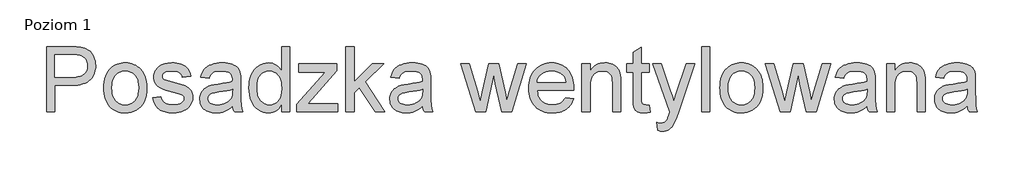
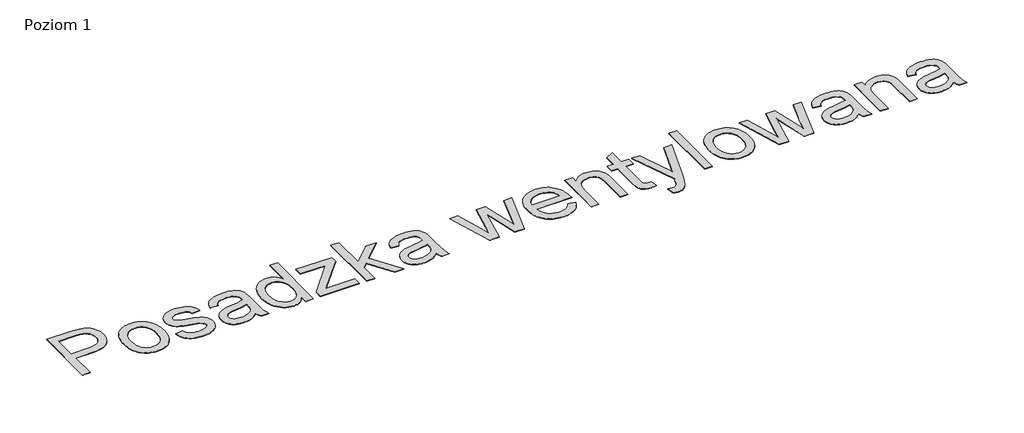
# One storey, part 2 of 4: 1 proxy.
"""IFC4 building model written with IfcOpenShell, lengths in millimetres."""

from ifc_helpers import new_model, si_unit, origin, origin_with_axes, place, context, project, spatial, polyline, outline, extrude, element, save

model = new_model("IFC4")

# Units and contexts
model_context = context("Model", 3, world=origin())
ifc_project = project(units=[si_unit("LENGTHUNIT", "METRE", prefix="MILLI")], contexts=[model_context])

# Site, building, storey
site = spatial("IfcSite", under=ifc_project)
building = spatial("IfcBuilding", under=site)
storey = spatial("IfcBuildingStorey", under=building, Name="Poziom 1", Elevation=0.0)

# Proxy
placement = place(None, origin())
element("IfcBuildingElementProxy", 1, Name="1500 mm Arial", ObjectType="1500 mm Arial", at=placement, inside=storey, context=model_context, shape_type="SweptSolid", body=[
    extrude(outline(polyline([(-116861.0329037, 48996.5868707), (-116861.0329037, 50503.4315229), (-116302.588035, 50503.4315229), (-116172.5417497, 50499.8446735), (-116077.4442539, 50489.0841251), (-116025.0325659, 50477.7832501), (-115977.0584545, 50462.2747247), (-115933.5219196, 50442.558549), (-115894.4229613, 50418.634723), (-115859.3477124, 50390.0089053), (-115827.8823055, 50356.1867543), (-115800.0267406, 50317.1682702), (-115775.7810179, 50272.9534529), (-115756.1453164, 50225.0023341), (-115742.1198153, 50174.7749455), (-115733.7045147, 50122.271287), (-115730.8994145, 50067.4913586), (-115732.7934319, 50020.3162409), (-115738.4754843, 49974.9920295), (-115747.9455716, 49931.5187243), (-115761.2036938, 49889.8963255), (-115778.249851, 49850.1248329), (-115799.084043, 49812.2042466), (-115823.70627, 49776.1345666), (-115852.1165319, 49741.9157929), (-115885.4702081, 49710.7033049), (-115924.922678, 49683.6524819), (-115970.4739416, 49660.763324), (-116022.1239989, 49642.0358312), (-116079.8728499, 49627.4700035), (-116143.7204946, 49617.0658408), (-116213.666933, 49610.8233432), (-116289.7121651, 49608.7425106), (-116672.6773221, 49608.7425106), (-116672.6773221, 48996.5868707), (-116861.0329037, 48996.5868707)]), holes=[polyline([(-116672.6773221, 49797.0980922), (-116278.6757053, 49797.0980922), (-116188.084764, 49801.4207056), (-116111.6572795, 49814.3885459), (-116078.7548335, 49824.1144262), (-116049.3932518, 49836.0016132), (-116023.5725343, 49850.0501068), (-116001.2926809, 49866.2599073), (-115965.4011938, 49904.3586864), (-115939.7644172, 49949.4932087), (-115924.3823513, 50001.6634741), (-115919.254996, 50060.8694827), (-115922.2785262, 50104.8313811), (-115931.3491166, 50145.4823416), (-115946.4667673, 50182.8223641), (-115967.6314784, 50216.8514487), (-115993.7166111, 50246.4659493), (-116023.5955269, 50270.56222), (-116057.2682258, 50289.1402607), (-116094.7347077, 50302.2000715), (-116167.3914017, 50311.8569739), (-116283.0902892, 50315.0759414), (-116672.6773221, 50315.0759414), (-116672.6773221, 49797.0980922)])]), origin_with_axes(), (0.0, 0.0, 1.0), 10.0),
    extrude(outline(polyline([(-115542.5438329, 49549.8813914), (-115539.9973998, 49624.0153616), (-115532.3581002, 49693.1944212), (-115519.6259343, 49757.4185701), (-115501.800902, 49816.6878084), (-115478.8830033, 49871.0021361), (-115450.8722383, 49920.3615532), (-115417.7686069, 49964.7660596), (-115379.5721091, 50004.2156555), (-115344.6118232, 50032.9276955), (-115307.7891348, 50057.8114636), (-115269.1040437, 50078.8669597), (-115228.5565501, 50096.0941837), (-115186.1466538, 50109.4931358), (-115141.8743549, 50119.0638158), (-115095.7396535, 50124.8062238), (-115047.7425494, 50126.7203598), (-114994.54049, 50124.3894825), (-114943.8273821, 50117.3968505), (-114895.6032259, 50105.7424639), (-114849.8680213, 50089.4263226), (-114806.6217683, 50068.4484266), (-114765.8644669, 50042.808776), (-114727.5961172, 50012.5073707), (-114691.8167191, 49977.5442108), (-114659.4402294, 49938.4711192), (-114631.3806051, 49895.8399189), (-114607.637846, 49849.65061), (-114588.2119522, 49799.9031924), (-114573.1029237, 49746.5976661), (-114562.3107605, 49689.7340311), (-114555.8354626, 49629.3122875), (-114553.6770299, 49565.3324352), (-114557.4938056, 49464.5097759), (-114568.9441327, 49375.0454732), (-114588.0280112, 49296.9395271), (-114614.7454411, 49230.1919376), (-114648.7630293, 49172.5379312), (-114689.7473829, 49121.7127343), (-114737.6985017, 49077.7163469), (-114792.6163858, 49040.5487691), (-114852.3627211, 49011.0147427), (-114914.7991934, 48989.9190095), (-114979.9258029, 48977.2615696), (-115047.7425494, 48973.042423), (-115101.7838397, 48975.3646781), (-115153.17523, 48982.3314434), (-115201.9167203, 48993.9427188), (-115248.0083106, 49010.1985045), (-115291.4500008, 49031.0988003), (-115332.2417911, 49056.6436064), (-115370.3836814, 49086.8329226), (-115405.8756717, 49121.666749), (-115437.907272, 49160.8691741), (-115465.6679923, 49204.1642864), (-115489.1578325, 49251.5520859), (-115508.3767926, 49303.0325726), (-115523.3248728, 49358.6057465), (-115534.0020729, 49418.2716076), (-115540.4083929, 49482.0301559), (-115542.5438329, 49549.8813914)]), holes=[polyline([(-115354.1882514, 49550.2492734), (-115348.7389994, 49458.8880792), (-115341.9274343, 49417.8031329), (-115332.3912432, 49379.7819539), (-115320.1304261, 49344.8245421), (-115305.1449829, 49312.9308976), (-115287.4349138, 49284.1010203), (-115267.0002186, 49258.3349102), (-115244.5019353, 49235.615323), (-115220.6011019, 49215.925014), (-115195.2977184, 49199.2639833), (-115168.5917848, 49185.6322309), (-115140.4833012, 49175.0297569), (-115110.9722674, 49167.4565611), (-115047.7425494, 49161.3980045), (-114984.8347283, 49167.49105), (-114955.4501539, 49175.107357), (-114927.445137, 49185.7701867), (-114900.8196776, 49199.4795392), (-114875.5737757, 49216.2354144), (-114851.7074312, 49236.0378124), (-114829.2206443, 49258.8867332), (-114808.7859491, 49284.8569028), (-114791.0758799, 49314.0230473), (-114776.0904368, 49346.3851665), (-114763.8296197, 49381.9432606), (-114754.2934286, 49420.6973295), (-114747.4818635, 49462.6473733), (-114742.0326114, 49556.1353853), (-114747.5163524, 49644.5995089), (-114754.3710287, 49684.5463202), (-114763.9675754, 49721.6362979), (-114776.3059926, 49755.869442), (-114791.3862804, 49787.2457525), (-114809.2084386, 49815.7652293), (-114829.7724673, 49841.4278726), (-114876.2980434, 49883.8377688), (-114901.5525675, 49900.4987995), (-114928.1349157, 49914.1305519), (-114956.0450881, 49924.7330259), (-114985.2830844, 49932.3062217), (-115047.7425494, 49938.3647783), (-115110.9722674, 49932.3292143), (-115140.4833012, 49924.7847594), (-115168.5917848, 49914.2225224), (-115195.2977184, 49900.6425034), (-115220.6011019, 49884.0447025), (-115244.5019353, 49864.4291195), (-115267.0002186, 49841.7957546), (-115287.4349138, 49816.1158669), (-115305.1449829, 49787.3607156), (-115320.1304261, 49755.5303008), (-115332.3912432, 49720.6246224), (-115341.9274343, 49682.6436805), (-115348.7389994, 49641.587475), (-115354.1882514, 49550.2492734)])]), origin_with_axes(), (0.0, 0.0, 1.0), 10.0),
    extrude(outline(polyline([(-114412.4103438, 49326.2091383), (-114224.0547622, 49349.753586), (-114212.673413, 49306.8033631), (-114194.3482911, 49269.1874291), (-114169.0793966, 49236.905784), (-114136.8667294, 49209.9584279), (-114097.618319, 49188.7132426), (-114051.242195, 49173.5381103), (-113997.7383573, 49164.433031), (-113937.106806, 49161.3980045), (-113876.5442325, 49164.1801121), (-113824.3509745, 49172.5264349), (-113780.5270318, 49186.4369728), (-113745.0724045, 49205.9117259), (-113717.7111811, 49229.1342769), (-113698.1674501, 49254.2882083), (-113686.4412115, 49281.3735202), (-113682.5324653, 49310.3902125), (-113686.4642042, 49335.8200555), (-113698.2594206, 49358.3988129), (-113717.9181147, 49378.1264849), (-113745.4402865, 49395.0030714), (-113815.9816591, 49418.9154011), (-113939.314098, 49448.7138427), (-114111.2069602, 49498.4238973), (-114174.5976265, 49520.5542986), (-114222.9511162, 49540.8682825), (-114261.3143106, 49562.1479567), (-114294.7340906, 49587.1754287), (-114323.2104562, 49615.9506985), (-114346.7434076, 49648.4737661), (-114365.1719963, 49683.767445), (-114378.335274, 49720.8545487), (-114386.2332405, 49759.735077), (-114388.8658961, 49800.4090301), (-114386.7505746, 49837.5996006), (-114380.4046102, 49873.3876209), (-114369.8280028, 49907.7730912), (-114355.0207525, 49940.7560113), (-114336.5576749, 49971.6695952), (-114315.0135855, 49999.8470568), (-114290.3884845, 50025.288396), (-114262.6823717, 50047.9936129), (-114210.6730547, 50078.2978922), (-114142.9367823, 50103.7277351), (-114064.6239026, 50120.9722037), (-113980.8847634, 50126.7203598), (-113917.5860676, 50124.4096011), (-113858.2880885, 50117.4773247), (-113802.9908261, 50105.9235308), (-113751.6942804, 50089.7482193), (-113705.6170605, 50069.6296727), (-113665.9777755, 50046.2461734), (-113632.7764255, 50019.5977214), (-113606.0130103, 49989.6843166), (-113584.3079726, 49955.4597948), (-113566.2817549, 49915.8779914), (-113551.934357, 49870.9389064), (-113541.2657792, 49820.6425399), (-113729.6213607, 49797.0980922), (-113738.5999807, 49828.5634991), (-113753.3957346, 49856.3730786), (-113774.0086227, 49880.5268309), (-113800.4386448, 49901.0247558), (-113832.800764, 49917.3610157), (-113871.2099436, 49929.0297727), (-113915.6661835, 49936.0310269), (-113966.1694836, 49938.3647783), (-114024.7546913, 49936.1344937), (-114074.3267902, 49929.4436399), (-114114.8857802, 49918.292217), (-114146.4316612, 49902.6802248), (-114170.0910721, 49884.102184), (-114186.9906512, 49864.0526153), (-114197.1303987, 49842.5315186), (-114200.5103145, 49819.5388939), (-114194.9001141, 49790.5681868), (-114178.0695128, 49764.7244766), (-114149.2827467, 49741.6398814), (-114107.8040518, 49723.1538111), (-113945.5680919, 49683.0546737), (-113779.1474743, 49633.8504568), (-113669.1047725, 49594.3951128), (-113630.3851925, 49575.150286), (-113596.0801965, 49551.9967129), (-113566.1897844, 49524.9343936), (-113540.7139562, 49493.9633281), (-113520.353987, 49459.0375312), (-113505.8111519, 49420.1110176), (-113497.0854508, 49377.1837873), (-113494.1768838, 49330.2558403), (-113497.5912886, 49283.1209597), (-113507.8345029, 49237.3656365), (-113524.9065267, 49192.9898708), (-113548.8073601, 49149.9936627), (-113579.1461284, 49110.0899625), (-113615.531957, 49074.9917209), (-113657.9648458, 49044.6989378), (-113706.444795, 49019.2116134), (-113759.6497286, 48999.0125926), (-113816.2575706, 48984.5847206), (-113876.268321, 48975.9279974), (-113939.68198, 48973.042423), (-114041.0564623, 48978.6066381), (-114086.9324967, 48985.5619071), (-114129.60106, 48995.2992837), (-114169.0621521, 49007.8187678), (-114205.3157731, 49023.1203596), (-114238.3619229, 49041.2040589), (-114268.2006016, 49062.0698658), (-114295.1594541, 49085.6717951), (-114319.5661252, 49111.9638614), (-114341.420615, 49140.9460648), (-114360.7229234, 49172.6184054), (-114377.4730505, 49206.980883), (-114391.6709963, 49244.0334977), (-114412.4103438, 49326.2091383)])), origin_with_axes(), (0.0, 0.0, 1.0), 10.0),
    extrude(outline(polyline([(-112575.9434238, 49137.8535568), (-112620.6065973, 49095.938002), (-112665.9365569, 49060.6903083), (-112711.9333026, 49032.1104758), (-112758.5968344, 49010.1985045), (-112806.4559828, 48993.9427188), (-112856.0395779, 48982.3314434), (-112907.3476199, 48975.3646781), (-112960.3801088, 48973.042423), (-113044.2457074, 48978.6296308), (-113082.3071235, 48985.6136405), (-113117.7876175, 48995.3912542), (-113150.6871893, 49007.9624717), (-113181.0058391, 49023.3272932), (-113208.7435667, 49041.4857185), (-113233.9003722, 49062.4377478), (-113256.2750701, 49085.5625801), (-113275.666475, 49110.2394145), (-113292.0745868, 49136.4682512), (-113305.4994055, 49164.24909), (-113315.9409312, 49193.5819309), (-113323.3991638, 49224.4667741), (-113329.36575, 49290.8924668), (-113327.1124727, 49330.8306559), (-113320.3526411, 49368.9754203), (-113309.086255, 49405.3267599), (-113293.3133144, 49439.8846749), (-113273.8730502, 49471.8904084), (-113251.6046932, 49500.5852041), (-113226.5082434, 49525.9690617), (-113198.5837007, 49548.0419814), (-113136.2736877, 49583.910476), (-113066.6980054, 49609.8461566), (-112998.9157478, 49624.2855249), (-112903.7262815, 49638.1730703), (-112800.1215146, 49652.4284976), (-112711.1400571, 49667.9715119), (-112636.7819088, 49684.8021131), (-112577.0470698, 49702.9203014), (-112575.9434238, 49744.8588489), (-112579.1853839, 49790.5222015), (-112588.9112642, 49828.9198848), (-112605.1210646, 49860.0518986), (-112627.8147852, 49883.918243), (-112667.0402029, 49907.7386022), (-112714.818877, 49924.7531445), (-112771.1508075, 49934.9618699), (-112836.0359944, 49938.3647783), (-112896.3686416, 49936.1000048), (-112948.240003, 49929.3056842), (-112991.6500784, 49917.9818165), (-113026.5988679, 49902.1284018), (-113055.3166562, 49880.5038383), (-113080.0337277, 49851.8665242), (-113100.7500826, 49816.2164596), (-113117.4657207, 49773.5536445), (-113305.8213023, 49797.0980922), (-113291.4854008, 49851.3606865), (-113273.1257899, 49900.1050508), (-113250.7424698, 49943.3311853), (-113224.3354403, 49981.0390898), (-113192.7665666, 50013.9875209), (-113154.8977137, 50042.9352354), (-113110.7288817, 50067.8822332), (-113060.2600705, 50088.8285143), (-113004.5144519, 50105.4061968), (-112944.5151978, 50117.2473985), (-112880.262308, 50124.3521195), (-112811.7557827, 50126.7203598), (-112744.7897633, 50124.628031), (-112684.4226272, 50118.3510445), (-112630.6543743, 50107.8894002), (-112583.4850047, 50093.2430983), (-112542.5236438, 50075.4353105), (-112507.379417, 50055.4892085), (-112478.0523242, 50033.4047925), (-112454.5423654, 50009.1820624), (-112435.4814796, 49982.2232099), (-112419.5016054, 49951.9304269), (-112406.6027429, 49918.3037133), (-112396.7848922, 49881.3430691), (-112389.8871048, 49816.2279559), (-112387.5878423, 49716.5319352), (-112387.5878423, 49482.1911043), (-112385.1966093, 49278.0625822), (-112378.0229104, 49154.9600696), (-112363.8594536, 49074.0720159), (-112340.4989469, 48996.5868707), (-112528.8545285, 48996.5868707), (-112545.5931592, 49028.0407813), (-112559.0208521, 49062.0698658), (-112569.1376069, 49098.6741243), (-112575.9434238, 49137.8535568)]), holes=[polyline([(-112575.9434238, 49514.5647199), (-112632.8731626, 49498.262949), (-112702.4948302, 49483.2027798), (-112879.8139519, 49456.8072466), (-112977.5326068, 49442.3678783), (-113041.8659707, 49426.273041), (-113084.0344444, 49405.3957378), (-113101.0144978, 49391.9910376), (-113115.2584288, 49376.6089717), (-113126.5248149, 49359.801363), (-113134.5722335, 49342.1200346), (-113139.4006847, 49323.5649865), (-113141.0101684, 49304.1362186), (-113137.5037932, 49274.8666074), (-113126.9846674, 49248.1261849), (-113109.452791, 49223.9149511), (-113084.9081642, 49202.232906), (-113053.580713, 49184.3676366), (-113015.7003638, 49171.6067299), (-112971.2671166, 49163.9501858), (-112920.2809713, 49161.3980045), (-112868.225669, 49164.214601), (-112819.1134226, 49172.6643906), (-112772.9442323, 49186.7473732), (-112729.7180978, 49206.4635489), (-112690.7226063, 49230.1804413), (-112657.2453448, 49256.265574), (-112629.2863131, 49284.7189471), (-112606.8455114, 49315.5405605), (-112593.8086932, 49343.1317101), (-112584.4966802, 49376.6089717), (-112578.9094724, 49415.9723452), (-112577.0470698, 49461.2218306), (-112575.9434238, 49514.5647199)])]), origin_with_axes(), (0.0, 0.0, 1.0), 10.0),
    extrude(outline(polyline([(-111445.8099347, 48996.5868707), (-111445.8099347, 49174.2738743), (-111472.4986238, 49127.1102529), (-111502.1648578, 49086.2351144), (-111534.8086367, 49051.6484587), (-111570.4299605, 49023.3502858), (-111609.0288292, 49001.3405958), (-111650.6052428, 48985.6193887), (-111695.1592014, 48976.1866644), (-111742.6907048, 48973.042423), (-111804.8627619, 48977.5949627), (-111864.4596452, 48991.2525817), (-111921.4813544, 49014.0152802), (-111975.9278897, 49045.883058), (-112026.0977968, 49085.9017213), (-112070.2896215, 49133.1170761), (-112108.5033637, 49187.5291225), (-112140.7390235, 49249.1378604), (-112166.3298148, 49316.7706659), (-112184.6089515, 49389.2549153), (-112195.5764334, 49466.5906084), (-112199.2322608, 49548.7777454), (-112195.8638413, 49629.4588655), (-112185.7585827, 49706.3232099), (-112168.9164851, 49779.3707785), (-112145.3375485, 49848.6015715), (-112115.0332691, 49911.9922378), (-112078.0151434, 49967.5194264), (-112034.2831712, 50015.1831374), (-111983.8373526, 50054.9833708), (-111928.459616, 50086.3683035), (-111869.9318898, 50108.7861126), (-111808.2541741, 50122.236798), (-111743.4264688, 50126.7203598), (-111696.0156766, 50123.5128887), (-111651.272029, 50113.8904753), (-111609.1955258, 50097.8531195), (-111569.786167, 50075.4008215), (-111533.4808126, 50047.8211682), (-111500.7163224, 50016.4017465), (-111471.4926964, 49981.1425566), (-111445.8099347, 49942.0435983), (-111445.8099347, 50503.4315229), (-111257.4543531, 50503.4315229), (-111257.4543531, 48996.5868707), (-111445.8099347, 48996.5868707)]), holes=[polyline([(-112010.8766792, 49549.5135094), (-112005.5653829, 49458.1753078), (-111998.9262626, 49417.1191023), (-111989.631494, 49379.1381604), (-111977.6810773, 49344.232482), (-111963.0750125, 49312.4020672), (-111945.8132995, 49283.6469159), (-111925.8959384, 49257.9670282), (-111881.4971801, 49215.7180804), (-111833.2816461, 49185.5402604), (-111781.2493364, 49167.4335685), (-111725.400251, 49161.3980045), (-111669.2867504, 49167.157657), (-111617.5648412, 49184.4366145), (-111570.2345232, 49213.2348769), (-111527.2957966, 49253.5524443), (-111508.1975477, 49278.1114416), (-111491.645732, 49305.7112134), (-111477.6403495, 49336.3517599), (-111466.1814001, 49370.033081), (-111450.902801, 49446.5180471), (-111445.8099347, 49535.1661116), (-111450.9947715, 49632.3559362), (-111457.4758176, 49675.7602635), (-111466.5492821, 49715.7042007), (-111478.2151651, 49752.187748), (-111492.4734665, 49785.2109052), (-111509.3241863, 49814.7736724), (-111528.7673246, 49840.8760496), (-111572.6487488, 49883.5273684), (-111596.3915079, 49900.2832437), (-111621.3356316, 49913.9925961), (-111647.48112, 49924.6554258), (-111674.827973, 49932.2717328), (-111733.1257729, 49938.3647783), (-111790.0785043, 49932.5131553), (-111842.110814, 49914.9582864), (-111889.222702, 49885.7001714), (-111931.4141683, 49844.7388105), (-111950.0381943, 49819.6452348), (-111966.1790168, 49791.1774913), (-111979.8366359, 49759.3355802), (-111991.0110515, 49724.1195014), (-112005.9102723, 49643.5648407), (-112010.8766792, 49549.5135094)])]), origin_with_axes(), (0.0, 0.0, 1.0), 10.0),
    extrude(outline(polyline([(-111092.6432193, 48996.5868707), (-111092.6432193, 49173.9059923), (-110442.5957338, 49914.8203306), (-110634.9980173, 49914.8203306), (-111045.5543239, 49914.8203306), (-111045.5543239, 50103.1759122), (-110174.4097593, 50103.1759122), (-110174.4097593, 49943.1472443), (-110750.8808458, 49285.7421189), (-110839.1725246, 49184.9424522), (-110621.3863835, 49184.9424522), (-110150.8653116, 49184.9424522), (-110150.8653116, 48996.5868707), (-111092.6432193, 48996.5868707)])), origin_with_axes(), (0.0, 0.0, 1.0), 10.0),
    extrude(outline(polyline([(-109962.5097301, 48996.5868707), (-109962.5097301, 50503.4315229), (-109774.1541486, 50503.4315229), (-109774.1541486, 49693.7232515), (-109351.8256181, 50103.1759122), (-109091.3651655, 50103.1759122), (-109518.8440439, 49688.5729036), (-109067.8207178, 48996.5868707), (-109287.8141509, 48996.5868707), (-109653.8567361, 49557.6069133), (-109774.1541486, 49440.9883208), (-109774.1541486, 48996.5868707), (-109962.5097301, 48996.5868707)])), origin_with_axes(), (0.0, 0.0, 1.0), 10.0),
    extrude(outline(polyline([(-108196.6761533, 49137.8535568), (-108241.3393267, 49095.938002), (-108286.6692863, 49060.6903083), (-108332.666032, 49032.1104758), (-108379.3295639, 49010.1985045), (-108427.1887122, 48993.9427188), (-108476.7723073, 48982.3314434), (-108528.0803493, 48975.3646781), (-108581.1128382, 48973.042423), (-108664.9784368, 48978.6296308), (-108703.0398529, 48985.6136405), (-108738.5203469, 48995.3912542), (-108771.4199188, 49007.9624717), (-108801.7385685, 49023.3272932), (-108829.4762961, 49041.4857185), (-108854.6331016, 49062.4377478), (-108877.0077995, 49085.5625801), (-108896.3992044, 49110.2394145), (-108912.8073162, 49136.4682512), (-108926.2321349, 49164.24909), (-108936.6736606, 49193.5819309), (-108944.1318933, 49224.4667741), (-108950.0984794, 49290.8924668), (-108947.8452022, 49330.8306559), (-108941.0853705, 49368.9754203), (-108929.8189844, 49405.3267599), (-108914.0460438, 49439.8846749), (-108894.6057797, 49471.8904084), (-108872.3374226, 49500.5852041), (-108847.2409728, 49525.9690617), (-108819.3164301, 49548.0419814), (-108757.0064172, 49583.910476), (-108687.4307348, 49609.8461566), (-108619.6484772, 49624.2855249), (-108524.459011, 49638.1730703), (-108420.8542441, 49652.4284976), (-108331.8727865, 49667.9715119), (-108257.5146382, 49684.8021131), (-108197.7797992, 49702.9203014), (-108196.6761533, 49744.8588489), (-108199.9181133, 49790.5222015), (-108209.6439936, 49828.9198848), (-108225.853794, 49860.0518986), (-108248.5475146, 49883.918243), (-108287.7729323, 49907.7386022), (-108335.5516064, 49924.7531445), (-108391.8835369, 49934.9618699), (-108456.7687238, 49938.3647783), (-108517.1013711, 49936.1000048), (-108568.9727324, 49929.3056842), (-108612.3828078, 49917.9818165), (-108647.3315973, 49902.1284018), (-108676.0493856, 49880.5038383), (-108700.7664571, 49851.8665242), (-108721.482812, 49816.2164596), (-108738.1984502, 49773.5536445), (-108926.5540317, 49797.0980922), (-108912.2181302, 49851.3606865), (-108893.8585194, 49900.1050508), (-108871.4751992, 49943.3311853), (-108845.0681698, 49981.0390898), (-108813.499296, 50013.9875209), (-108775.6304432, 50042.9352354), (-108731.4616111, 50067.8822332), (-108680.9927999, 50088.8285143), (-108625.2471813, 50105.4061968), (-108565.2479272, 50117.2473985), (-108500.9950374, 50124.3521195), (-108432.4885122, 50126.7203598), (-108365.5224927, 50124.628031), (-108305.1553566, 50118.3510445), (-108251.3871037, 50107.8894002), (-108204.2177342, 50093.2430983), (-108163.2563733, 50075.4353105), (-108128.1121464, 50055.4892085), (-108098.7850536, 50033.4047925), (-108075.2750948, 50009.1820624), (-108056.214209, 49982.2232099), (-108040.2343348, 49951.9304269), (-108027.3354723, 49918.3037133), (-108017.5176216, 49881.3430691), (-108010.6198342, 49816.2279559), (-108008.3205717, 49716.5319352), (-108008.3205717, 49482.1911043), (-108005.9293388, 49278.0625822), (-107998.7556398, 49154.9600696), (-107984.592183, 49074.0720159), (-107961.2316763, 48996.5868707), (-108149.5872579, 48996.5868707), (-108166.3258886, 49028.0407813), (-108179.7535815, 49062.0698658), (-108189.8703363, 49098.6741243), (-108196.6761533, 49137.8535568)]), holes=[polyline([(-108196.6761533, 49514.5647199), (-108253.605892, 49498.262949), (-108323.2275596, 49483.2027798), (-108500.5466813, 49456.8072466), (-108598.2653362, 49442.3678783), (-108662.5987001, 49426.273041), (-108704.7671738, 49405.3957378), (-108721.7472272, 49391.9910376), (-108735.9911582, 49376.6089717), (-108747.2575443, 49359.801363), (-108755.3049629, 49342.1200346), (-108760.1334141, 49323.5649865), (-108761.7428978, 49304.1362186), (-108758.2365226, 49274.8666074), (-108747.7173968, 49248.1261849), (-108730.1855204, 49223.9149511), (-108705.6408936, 49202.232906), (-108674.3134424, 49184.3676366), (-108636.4330932, 49171.6067299), (-108591.999846, 49163.9501858), (-108541.0137007, 49161.3980045), (-108488.9583984, 49164.214601), (-108439.8461521, 49172.6643906), (-108393.6769617, 49186.7473732), (-108350.4508272, 49206.4635489), (-108311.4553357, 49230.1804413), (-108277.9780742, 49256.265574), (-108250.0190426, 49284.7189471), (-108227.5782408, 49315.5405605), (-108214.5414226, 49343.1317101), (-108205.2294096, 49376.6089717), (-108199.6422018, 49415.9723452), (-108197.7797992, 49461.2218306), (-108196.6761533, 49514.5647199)])]), origin_with_axes(), (0.0, 0.0, 1.0), 10.0),
    extrude(outline(polyline([(-106977.1473392, 48996.5868707), (-107313.7593648, 50103.1759122), (-107118.0461434, 50103.1759122), (-106927.1153879, 49457.5430106), (-106870.0936786, 49226.8809996), (-106823.3726653, 49449.0817247), (-106671.4374012, 50103.1759122), (-106447.0293842, 50103.1759122), (-106295.8298842, 49450.9211347), (-106254.2592187, 49249.6896833), (-106194.6623355, 49461.9575946), (-106003.363698, 50103.1759122), (-105806.9147126, 50103.1759122), (-106146.1019121, 48996.5868707), (-106373.8208672, 48996.5868707), (-106518.3984913, 49645.5307102), (-106560.3370387, 49847.8658075), (-106746.8532103, 48996.5868707), (-106977.1473392, 48996.5868707)])), origin_with_axes(), (0.0, 0.0, 1.0), 10.0),
    extrude(outline(polyline([(-104902.6607684, 49326.2091383), (-104717.9840069, 49302.6646907), (-104746.2994242, 49228.697417), (-104764.1733158, 49195.0074737), (-104784.5246627, 49163.513326), (-104807.353465, 49134.214974), (-104832.6597225, 49107.1124176), (-104860.4434354, 49082.2056569), (-104890.7046036, 49059.4946918), (-104923.293775, 49039.2324413), (-104958.0614976, 49021.6718242), (-104995.0077715, 49006.8128405), (-105034.1325965, 48994.6554902), (-105118.9179, 48978.4456898), (-105212.4174084, 48973.042423), (-105272.4454033, 48975.3733003), (-105329.2889197, 48982.3659323), (-105382.9479576, 48994.0203189), (-105433.422517, 49010.3364602), (-105480.7125978, 49031.3143562), (-105524.8182002, 49056.9540068), (-105565.739324, 49087.2554121), (-105603.4759693, 49122.218572), (-105637.3613499, 49161.3893823), (-105666.7286798, 49204.3137385), (-105691.5779589, 49250.9916407), (-105711.9091873, 49301.4230889), (-105727.722365, 49355.6080831), (-105739.0174918, 49413.5466233), (-105745.794568, 49475.2387094), (-105748.0535934, 49540.6843415), (-105745.7715754, 49608.3573842), (-105738.9255213, 49672.1331769), (-105727.5154313, 49732.0117198), (-105711.5413053, 49787.9930128), (-105691.0031433, 49840.0770559), (-105665.9009453, 49888.2638491), (-105636.2347113, 49932.5533924), (-105602.0044413, 49972.9456859), (-105564.1355884, 50008.9866251), (-105523.5536058, 50040.2221057), (-105480.2584935, 50066.6521278), (-105434.2502515, 50088.2766914), (-105385.5288797, 50105.0957963), (-105334.0943783, 50117.1094427), (-105279.9467471, 50124.3176306), (-105223.0859862, 50126.7203598), (-105168.0847539, 50124.3233787), (-105115.6529473, 50117.1324353), (-105065.7905666, 50105.1475297), (-105018.4976117, 50088.3686618), (-104973.7740826, 50066.7958317), (-104931.6199792, 50040.4290394), (-104892.0353017, 50009.2682847), (-104855.0200501, 49973.3135679), (-104821.52267, 49933.0132449), (-104792.4916072, 49888.8156721), (-104767.9268618, 49840.7208494), (-104747.8284337, 49788.7287768), (-104732.196323, 49732.8394543), (-104721.0305296, 49673.0528819), (-104714.3310536, 49609.3690597), (-104712.0978949, 49541.7879875), (-104713.2015409, 49491.0202722), (-105559.6980118, 49491.0202722), (-105548.7880114, 49415.857382), (-105539.2891833, 49381.7765641), (-105527.09447, 49350.0294975), (-105512.2038714, 49320.6161824), (-105494.6173876, 49293.5366186), (-105474.3350186, 49268.7908063), (-105451.3567642, 49246.3787454), (-105399.7038329, 49209.1996713), (-105342.0498264, 49182.6431897), (-105278.394745, 49166.7093008), (-105208.7385884, 49161.3980045), (-105156.6373009, 49163.8582153), (-105108.4907447, 49171.2388479), (-105064.2989201, 49183.5399021), (-105024.0618268, 49200.761378), (-104987.7794651, 49223.3631281), (-104955.4518347, 49251.8050048), (-104927.0789359, 49286.0870082), (-104902.6607684, 49326.2091383)]), holes=[polyline([(-105559.6980118, 49679.3758537), (-104900.4534765, 49679.3758537), (-104910.1333715, 49732.6727578), (-104925.9293046, 49778.8879334), (-104947.841276, 49818.0213806), (-104975.8692855, 49850.0730995), (-105000.6668312, 49870.7664617), (-105027.2348091, 49888.700709), (-105055.573219, 49903.8758413), (-105085.682061, 49916.2918586), (-105151.2110414, 49932.8465484), (-105223.8217502, 49938.3647783), (-105290.0520057, 49933.9616907), (-105350.7870238, 49920.7524278), (-105406.0268047, 49898.7369896), (-105455.7713482, 49867.9153762), (-105497.5144583, 49829.7131303), (-105528.749939, 49785.5557946), (-105549.4777901, 49735.443369), (-105559.6980118, 49679.3758537)])]), origin_with_axes(), (0.0, 0.0, 1.0), 10.0),
    extrude(outline(polyline([(-104523.7423134, 48996.5868707), (-104523.7423134, 50103.1759122), (-104335.3867319, 50103.1759122), (-104335.3867319, 49948.6654742), (-104304.3121996, 49990.397088), (-104269.949722, 50026.5644867), (-104232.299299, 50057.1676701), (-104191.3609308, 50082.2066384), (-104147.1346172, 50101.6813915), (-104099.6203582, 50115.5919295), (-104048.8181539, 50123.9382523), (-103994.7280043, 50126.7203598), (-103947.3287085, 50124.4785789), (-103901.8837858, 50117.7532362), (-103858.3932362, 50106.5443317), (-103816.8570597, 50090.8518653), (-103778.850251, 50071.5150679), (-103745.9478051, 50049.3731704), (-103718.1497218, 50024.4261726), (-103695.4560013, 49996.6740746), (-103676.8204789, 49966.1513653), (-103661.1969905, 49932.8925336), (-103648.5855358, 49896.8975797), (-103638.986115, 49858.1665034), (-103631.5365046, 49786.7054258), (-103629.0533011, 49676.0649158), (-103629.0533011, 48996.5868707), (-103817.4088827, 48996.5868707), (-103817.4088827, 49650.6810581), (-103822.8351421, 49748.0778163), (-103829.6179664, 49786.2225807), (-103839.1139204, 49817.3316019), (-103852.0472718, 49843.5316977), (-103869.1422882, 49866.949686), (-103890.3989698, 49887.5855667), (-103915.8173164, 49905.4393397), (-103944.5236083, 49919.8442191), (-103975.6441258, 49930.1334187), (-104009.178869, 49936.3069384), (-104045.1278377, 49938.3647783), (-104102.3219916, 49933.7432608), (-104155.446451, 49919.8787081), (-104204.5012158, 49896.7711202), (-104249.486286, 49864.4204973), (-104269.619203, 49843.8593426), (-104287.0677311, 49819.1480193), (-104301.8318702, 49790.2865271), (-104313.9116204, 49757.2748662), (-104323.3069817, 49720.1130365), (-104330.017954, 49678.8010381), (-104335.3867319, 49583.726535), (-104335.3867319, 48996.5868707), (-104523.7423134, 48996.5868707)])), origin_with_axes(), (0.0, 0.0, 1.0), 10.0),
    extrude(outline(polyline([(-102969.8087658, 49153.6724826), (-102946.2643181, 48991.0686407), (-103020.8523926, 48977.5489774), (-103087.1631222, 48973.042423), (-103135.2407005, 48974.9967961), (-103177.5701226, 48980.8599154), (-103214.1513885, 48990.6317809), (-103244.9844982, 49004.3123926), (-103270.8741936, 49021.1659865), (-103292.6252165, 49040.4567986), (-103310.2375671, 49062.1848289), (-103323.7112451, 49086.3500775), (-103333.6900443, 49118.7466857), (-103340.8177579, 49165.168795), (-103345.0943861, 49225.6164053), (-103346.5199288, 49300.0895167), (-103346.5199288, 49914.8203306), (-103487.786615, 49914.8203306), (-103487.786615, 50103.1759122), (-103346.5199288, 50103.1759122), (-103346.5199288, 50372.0976506), (-103158.1643473, 50482.8301312), (-103158.1643473, 50103.1759122), (-102969.8087658, 50103.1759122), (-102969.8087658, 49914.8203306), (-103158.1643473, 49914.8203306), (-103158.1643473, 49305.6077466), (-103155.6811438, 49243.6196304), (-103148.2315334, 49208.4868999), (-103135.2177079, 49189.0351394), (-103116.0418589, 49174.0899333), (-103088.8645765, 49164.5709867), (-103051.8464507, 49161.3980045), (-102969.8087658, 49153.6724826)])), origin_with_axes(), (0.0, 0.0, 1.0), 10.0),
    extrude(outline(polyline([(-102781.4531842, 48572.7868122), (-102804.9976319, 48754.1526358), (-102753.6780936, 48741.7366185), (-102709.3483132, 48737.5979461), (-102659.0404504, 48742.7942792), (-102638.0941693, 48749.2896957), (-102619.9529884, 48758.3832788), (-102589.5107533, 48783.2612987), (-102565.1385711, 48816.324693), (-102544.3532384, 48864.9770869), (-102513.6350918, 48955.0162052), (-102498.919812, 49000.6335726), (-102899.1754227, 50103.1759122), (-102700.5191453, 50103.1759122), (-102488.2512341, 49488.8129802), (-102449.1637721, 49368.8834498), (-102414.3069531, 49243.0678074), (-102340.362672, 49460.1181846), (-102122.2086489, 50103.1759122), (-101925.0238995, 50103.1759122), (-102310.1963484, 48970.099367), (-102367.4019987, 48819.45169), (-102410.2602511, 48724.3541942), (-102435.0233079, 48682.1167427), (-102461.4878189, 48645.9033588), (-102489.6537842, 48615.7140425), (-102519.5212037, 48591.548794), (-102551.7338709, 48573.0397311), (-102586.9355793, 48559.8189719), (-102625.1263289, 48551.8865164), (-102666.3061198, 48549.2423645), (-102720.8446255, 48555.1284765), (-102781.4531842, 48572.7868122)])), origin_with_axes(), (0.0, 0.0, 1.0), 10.0),
    extrude(outline(polyline([(-101769.0419335, 48996.5868707), (-101769.0419335, 50503.4315229), (-101580.686352, 50503.4315229), (-101580.686352, 48996.5868707), (-101769.0419335, 48996.5868707)])), origin_with_axes(), (0.0, 0.0, 1.0), 10.0),
    extrude(outline(polyline([(-101345.2418751, 49549.8813914), (-101342.6954419, 49624.0153616), (-101335.0561423, 49693.1944212), (-101322.3239764, 49757.4185701), (-101304.4989441, 49816.6878084), (-101281.5810454, 49871.0021361), (-101253.5702804, 49920.3615532), (-101220.466649, 49964.7660596), (-101182.2701512, 50004.2156555), (-101147.3098654, 50032.9276955), (-101110.4871769, 50057.8114636), (-101071.8020859, 50078.8669597), (-101031.2545922, 50096.0941837), (-100988.8446959, 50109.4931358), (-100944.5723971, 50119.0638158), (-100898.4376956, 50124.8062238), (-100850.4405916, 50126.7203598), (-100797.2385321, 50124.3894825), (-100746.5254242, 50117.3968505), (-100698.301268, 50105.7424639), (-100652.5660634, 50089.4263226), (-100609.3198104, 50068.4484266), (-100568.5625091, 50042.808776), (-100530.2941593, 50012.5073707), (-100494.5147612, 49977.5442108), (-100462.1382716, 49938.4711192), (-100434.0786472, 49895.8399189), (-100410.3358881, 49849.65061), (-100390.9099943, 49799.9031924), (-100375.8009658, 49746.5976661), (-100365.0088026, 49689.7340311), (-100358.5335047, 49629.3122875), (-100356.375072, 49565.3324352), (-100360.1918477, 49464.5097759), (-100371.6421748, 49375.0454732), (-100390.7260533, 49296.9395271), (-100417.4434832, 49230.1919376), (-100451.4610715, 49172.5379312), (-100492.445425, 49121.7127343), (-100540.3965438, 49077.7163469), (-100595.3144279, 49040.5487691), (-100655.0607632, 49011.0147427), (-100717.4972356, 48989.9190095), (-100782.623845, 48977.2615696), (-100850.4405916, 48973.042423), (-100904.4818818, 48975.3646781), (-100955.8732721, 48982.3314434), (-101004.6147624, 48993.9427188), (-101050.7063527, 49010.1985045), (-101094.148043, 49031.0988003), (-101134.9398333, 49056.6436064), (-101173.0817236, 49086.8329226), (-101208.5737139, 49121.666749), (-101240.6053142, 49160.8691741), (-101268.3660344, 49204.1642864), (-101291.8558746, 49251.5520859), (-101311.0748348, 49303.0325726), (-101326.0229149, 49358.6057465), (-101336.700115, 49418.2716076), (-101343.1064351, 49482.0301559), (-101345.2418751, 49549.8813914)]), holes=[polyline([(-101156.8862935, 49550.2492734), (-101151.4370415, 49458.8880792), (-101144.6254764, 49417.8031329), (-101135.0892853, 49379.7819539), (-101122.8284682, 49344.8245421), (-101107.8430251, 49312.9308976), (-101090.1329559, 49284.1010203), (-101069.6982607, 49258.3349102), (-101047.1999774, 49235.615323), (-101023.2991441, 49215.925014), (-100997.9957606, 49199.2639833), (-100971.289827, 49185.6322309), (-100943.1813433, 49175.0297569), (-100913.6703095, 49167.4565611), (-100850.4405916, 49161.3980045), (-100787.5327704, 49167.49105), (-100758.148196, 49175.107357), (-100730.1431791, 49185.7701867), (-100703.5177197, 49199.4795392), (-100678.2718178, 49216.2354144), (-100654.4054734, 49236.0378124), (-100631.9186864, 49258.8867332), (-100611.4839912, 49284.8569028), (-100593.7739221, 49314.0230473), (-100578.7884789, 49346.3851665), (-100566.5276618, 49381.9432606), (-100556.9914707, 49420.6973295), (-100550.1799056, 49462.6473733), (-100544.7306536, 49556.1353853), (-100550.2143946, 49644.5995089), (-100557.0690708, 49684.5463202), (-100566.6656175, 49721.6362979), (-100579.0040348, 49755.869442), (-100594.0843225, 49787.2457525), (-100611.9064807, 49815.7652293), (-100632.4705094, 49841.4278726), (-100678.9960855, 49883.8377688), (-100704.2506097, 49900.4987995), (-100730.8329579, 49914.1305519), (-100758.7431302, 49924.7330259), (-100787.9811266, 49932.3062217), (-100850.4405916, 49938.3647783), (-100913.6703095, 49932.3292143), (-100943.1813433, 49924.7847594), (-100971.289827, 49914.2225224), (-100997.9957606, 49900.6425034), (-101023.2991441, 49884.0447025), (-101047.1999774, 49864.4291195), (-101069.6982607, 49841.7957546), (-101090.1329559, 49816.1158669), (-101107.8430251, 49787.3607156), (-101122.8284682, 49755.5303008), (-101135.0892853, 49720.6246224), (-101144.6254764, 49682.6436805), (-101151.4370415, 49641.587475), (-101156.8862935, 49550.2492734)])]), origin_with_axes(), (0.0, 0.0, 1.0), 10.0),
    extrude(outline(polyline([(-99960.9019272, 48996.5868707), (-100297.5139528, 50103.1759122), (-100101.8007314, 50103.1759122), (-99910.8699759, 49457.5430106), (-99853.8482666, 49226.8809996), (-99807.1272532, 49449.0817247), (-99655.1919892, 50103.1759122), (-99430.7839722, 50103.1759122), (-99279.5844722, 49450.9211347), (-99238.0138067, 49249.6896833), (-99178.4169235, 49461.9575946), (-98987.118286, 50103.1759122), (-98790.6693006, 50103.1759122), (-99129.8565001, 48996.5868707), (-99357.5754551, 48996.5868707), (-99502.1530792, 49645.5307102), (-99544.0916267, 49847.8658075), (-99730.6077982, 48996.5868707), (-99960.9019272, 48996.5868707)])), origin_with_axes(), (0.0, 0.0, 1.0), 10.0),
    extrude(outline(polyline([(-97954.8414075, 49137.8535568), (-97999.504581, 49095.938002), (-98044.8345406, 49060.6903083), (-98090.8312863, 49032.1104758), (-98137.4948181, 49010.1985045), (-98185.3539664, 48993.9427188), (-98234.9375616, 48982.3314434), (-98286.2456036, 48975.3646781), (-98339.2780925, 48973.042423), (-98423.1436911, 48978.6296308), (-98461.2051072, 48985.6136405), (-98496.6856012, 48995.3912542), (-98529.585173, 49007.9624717), (-98559.9038228, 49023.3272932), (-98587.6415504, 49041.4857185), (-98612.7983559, 49062.4377478), (-98635.1730538, 49085.5625801), (-98654.5644587, 49110.2394145), (-98670.9725705, 49136.4682512), (-98684.3973892, 49164.24909), (-98694.8389149, 49193.5819309), (-98702.2971475, 49224.4667741), (-98708.2637337, 49290.8924668), (-98706.0104564, 49330.8306559), (-98699.2506248, 49368.9754203), (-98687.9842387, 49405.3267599), (-98672.2112981, 49439.8846749), (-98652.7710339, 49471.8904084), (-98630.5026769, 49500.5852041), (-98605.4062271, 49525.9690617), (-98577.4816844, 49548.0419814), (-98515.1716714, 49583.910476), (-98445.5959891, 49609.8461566), (-98377.8137315, 49624.2855249), (-98282.6242652, 49638.1730703), (-98179.0194983, 49652.4284976), (-98090.0380408, 49667.9715119), (-98015.6798925, 49684.8021131), (-97955.9450535, 49702.9203014), (-97954.8414075, 49744.8588489), (-97958.0833676, 49790.5222015), (-97967.8092479, 49828.9198848), (-97984.0190483, 49860.0518986), (-98006.7127688, 49883.918243), (-98045.9381866, 49907.7386022), (-98093.7168607, 49924.7531445), (-98150.0487912, 49934.9618699), (-98214.9339781, 49938.3647783), (-98275.2666253, 49936.1000048), (-98327.1379866, 49929.3056842), (-98370.5480621, 49917.9818165), (-98405.4968516, 49902.1284018), (-98434.2146399, 49880.5038383), (-98458.9317114, 49851.8665242), (-98479.6480663, 49816.2164596), (-98496.3637044, 49773.5536445), (-98684.719286, 49797.0980922), (-98670.3833845, 49851.3606865), (-98652.0237736, 49900.1050508), (-98629.6404535, 49943.3311853), (-98603.233424, 49981.0390898), (-98571.6645503, 50013.9875209), (-98533.7956974, 50042.9352354), (-98489.6268654, 50067.8822332), (-98439.1580542, 50088.8285143), (-98383.4124356, 50105.4061968), (-98323.4131814, 50117.2473985), (-98259.1602917, 50124.3521195), (-98190.6537664, 50126.7203598), (-98123.687747, 50124.628031), (-98063.3206109, 50118.3510445), (-98009.552358, 50107.8894002), (-97962.3829884, 50093.2430983), (-97921.4216275, 50075.4353105), (-97886.2774007, 50055.4892085), (-97856.9503079, 50033.4047925), (-97833.4403491, 50009.1820624), (-97814.3794632, 49982.2232099), (-97798.3995891, 49951.9304269), (-97785.5007266, 49918.3037133), (-97775.6828759, 49881.3430691), (-97768.7850885, 49816.2279559), (-97766.485826, 49716.5319352), (-97766.485826, 49482.1911043), (-97764.094593, 49278.0625822), (-97756.9208941, 49154.9600696), (-97742.7574373, 49074.0720159), (-97719.3969306, 48996.5868707), (-97907.7525121, 48996.5868707), (-97924.4911429, 49028.0407813), (-97937.9188358, 49062.0698658), (-97948.0355906, 49098.6741243), (-97954.8414075, 49137.8535568)]), holes=[polyline([(-97954.8414075, 49514.5647199), (-98011.7711463, 49498.262949), (-98081.3928139, 49483.2027798), (-98258.7119355, 49456.8072466), (-98356.4305905, 49442.3678783), (-98420.7639544, 49426.273041), (-98462.9324281, 49405.3957378), (-98479.9124815, 49391.9910376), (-98494.1564125, 49376.6089717), (-98505.4227986, 49359.801363), (-98513.4702172, 49342.1200346), (-98518.2986684, 49323.5649865), (-98519.9081521, 49304.1362186), (-98516.4017769, 49274.8666074), (-98505.8826511, 49248.1261849), (-98488.3507747, 49223.9149511), (-98463.8061479, 49202.232906), (-98432.4786967, 49184.3676366), (-98394.5983475, 49171.6067299), (-98350.1651003, 49163.9501858), (-98299.178955, 49161.3980045), (-98247.1236527, 49164.214601), (-98198.0114063, 49172.6643906), (-98151.8422159, 49186.7473732), (-98108.6160815, 49206.4635489), (-98069.62059, 49230.1804413), (-98036.1433285, 49256.265574), (-98008.1842968, 49284.7189471), (-97985.7434951, 49315.5405605), (-97972.7066769, 49343.1317101), (-97963.3946639, 49376.6089717), (-97957.8074561, 49415.9723452), (-97955.9450535, 49461.2218306), (-97954.8414075, 49514.5647199)])]), origin_with_axes(), (0.0, 0.0, 1.0), 10.0),
    extrude(outline(polyline([(-97507.4969014, 48996.5868707), (-97507.4969014, 50103.1759122), (-97319.1413199, 50103.1759122), (-97319.1413199, 49948.6654742), (-97288.0667876, 49990.397088), (-97253.70431, 50026.5644867), (-97216.053887, 50057.1676701), (-97175.1155188, 50082.2066384), (-97130.8892051, 50101.6813915), (-97083.3749462, 50115.5919295), (-97032.5727419, 50123.9382523), (-96978.4825923, 50126.7203598), (-96931.0832965, 50124.4785789), (-96885.6383738, 50117.7532362), (-96842.1478242, 50106.5443317), (-96800.6116477, 50090.8518653), (-96762.604839, 50071.5150679), (-96729.7023931, 50049.3731704), (-96701.9043098, 50024.4261726), (-96679.2105893, 49996.6740746), (-96660.5750669, 49966.1513653), (-96644.9515785, 49932.8925336), (-96632.3401238, 49896.8975797), (-96622.740703, 49858.1665034), (-96615.2910926, 49786.7054258), (-96612.8078891, 49676.0649158), (-96612.8078891, 48996.5868707), (-96801.1634707, 48996.5868707), (-96801.1634707, 49650.6810581), (-96806.5897301, 49748.0778163), (-96813.3725544, 49786.2225807), (-96822.8685084, 49817.3316019), (-96835.8018598, 49843.5316977), (-96852.8968762, 49866.949686), (-96874.1535578, 49887.5855667), (-96899.5719044, 49905.4393397), (-96928.2781963, 49919.8442191), (-96959.3987138, 49930.1334187), (-96992.933457, 49936.3069384), (-97028.8824257, 49938.3647783), (-97086.0765796, 49933.7432608), (-97139.201039, 49919.8787081), (-97188.2558038, 49896.7711202), (-97233.240874, 49864.4204973), (-97253.373791, 49843.8593426), (-97270.8223191, 49819.1480193), (-97285.5864582, 49790.2865271), (-97297.6662084, 49757.2748662), (-97307.0615697, 49720.1130365), (-97313.772542, 49678.8010381), (-97319.1413199, 49583.726535), (-97319.1413199, 48996.5868707), (-97507.4969014, 48996.5868707)])), origin_with_axes(), (0.0, 0.0, 1.0), 10.0),
    extrude(outline(polyline([(-95647.4855338, 49137.8535568), (-95692.1487073, 49095.938002), (-95737.4786669, 49060.6903083), (-95783.4754126, 49032.1104758), (-95830.1389444, 49010.1985045), (-95877.9980927, 48993.9427188), (-95927.5816879, 48982.3314434), (-95978.8897299, 48975.3646781), (-96031.9222187, 48973.042423), (-96115.7878173, 48978.6296308), (-96153.8492334, 48985.6136405), (-96189.3297274, 48995.3912542), (-96222.2292993, 49007.9624717), (-96252.547949, 49023.3272932), (-96280.2856767, 49041.4857185), (-96305.4424822, 49062.4377478), (-96327.8171801, 49085.5625801), (-96347.2085849, 49110.2394145), (-96363.6166967, 49136.4682512), (-96377.0415155, 49164.24909), (-96387.4830412, 49193.5819309), (-96394.9412738, 49224.4667741), (-96400.9078599, 49290.8924668), (-96398.6545827, 49330.8306559), (-96391.894751, 49368.9754203), (-96380.6283649, 49405.3267599), (-96364.8554244, 49439.8846749), (-96345.4151602, 49471.8904084), (-96323.1468032, 49500.5852041), (-96298.0503533, 49525.9690617), (-96270.1258106, 49548.0419814), (-96207.8157977, 49583.910476), (-96138.2401153, 49609.8461566), (-96070.4578577, 49624.2855249), (-95975.2683915, 49638.1730703), (-95871.6636246, 49652.4284976), (-95782.682167, 49667.9715119), (-95708.3240187, 49684.8021131), (-95648.5891798, 49702.9203014), (-95647.4855338, 49744.8588489), (-95650.7274939, 49790.5222015), (-95660.4533741, 49828.9198848), (-95676.6631745, 49860.0518986), (-95699.3568951, 49883.918243), (-95738.5823128, 49907.7386022), (-95786.360987, 49924.7531445), (-95842.6929175, 49934.9618699), (-95907.5781044, 49938.3647783), (-95967.9107516, 49936.1000048), (-96019.7821129, 49929.3056842), (-96063.1921883, 49917.9818165), (-96098.1409779, 49902.1284018), (-96126.8587661, 49880.5038383), (-96151.5758377, 49851.8665242), (-96172.2921925, 49816.2164596), (-96189.0078307, 49773.5536445), (-96377.3634122, 49797.0980922), (-96363.0275107, 49851.3606865), (-96344.6678999, 49900.1050508), (-96322.2845797, 49943.3311853), (-96295.8775503, 49981.0390898), (-96264.3086766, 50013.9875209), (-96226.4398237, 50042.9352354), (-96182.2709916, 50067.8822332), (-96131.8021804, 50088.8285143), (-96076.0565618, 50105.4061968), (-96016.0573077, 50117.2473985), (-95951.804418, 50124.3521195), (-95883.2978927, 50126.7203598), (-95816.3318733, 50124.628031), (-95755.9647371, 50118.3510445), (-95702.1964843, 50107.8894002), (-95655.0271147, 50093.2430983), (-95614.0657538, 50075.4353105), (-95578.9215269, 50055.4892085), (-95549.5944341, 50033.4047925), (-95526.0844754, 50009.1820624), (-95507.0235895, 49982.2232099), (-95491.0437153, 49951.9304269), (-95478.1448529, 49918.3037133), (-95468.3270021, 49881.3430691), (-95461.4292147, 49816.2279559), (-95459.1299523, 49716.5319352), (-95459.1299523, 49482.1911043), (-95456.7387193, 49278.0625822), (-95449.5650204, 49154.9600696), (-95435.4015636, 49074.0720159), (-95412.0410569, 48996.5868707), (-95600.3966384, 48996.5868707), (-95617.1352692, 49028.0407813), (-95630.562962, 49062.0698658), (-95640.6797169, 49098.6741243), (-95647.4855338, 49137.8535568)]), holes=[polyline([(-95647.4855338, 49514.5647199), (-95704.4152725, 49498.262949), (-95774.0369401, 49483.2027798), (-95951.3560618, 49456.8072466), (-96049.0747168, 49442.3678783), (-96113.4080807, 49426.273041), (-96155.5765544, 49405.3957378), (-96172.5566077, 49391.9910376), (-96186.8005387, 49376.6089717), (-96198.0669248, 49359.801363), (-96206.1143435, 49342.1200346), (-96210.9427946, 49323.5649865), (-96212.5522784, 49304.1362186), (-96209.0459031, 49274.8666074), (-96198.5267773, 49248.1261849), (-96180.994901, 49223.9149511), (-96156.4502741, 49202.232906), (-96125.122823, 49184.3676366), (-96087.2424738, 49171.6067299), (-96042.8092265, 49163.9501858), (-95991.8230813, 49161.3980045), (-95939.7677789, 49164.214601), (-95890.6555326, 49172.6643906), (-95844.4863422, 49186.7473732), (-95801.2602078, 49206.4635489), (-95762.2647163, 49230.1804413), (-95728.7874547, 49256.265574), (-95700.8284231, 49284.7189471), (-95678.3876214, 49315.5405605), (-95665.3508032, 49343.1317101), (-95656.0387902, 49376.6089717), (-95650.4515824, 49415.9723452), (-95648.5891798, 49461.2218306), (-95647.4855338, 49514.5647199)])]), origin_with_axes(), (0.0, 0.0, 1.0), 10.0),
])

save(model, "model.ifc")
